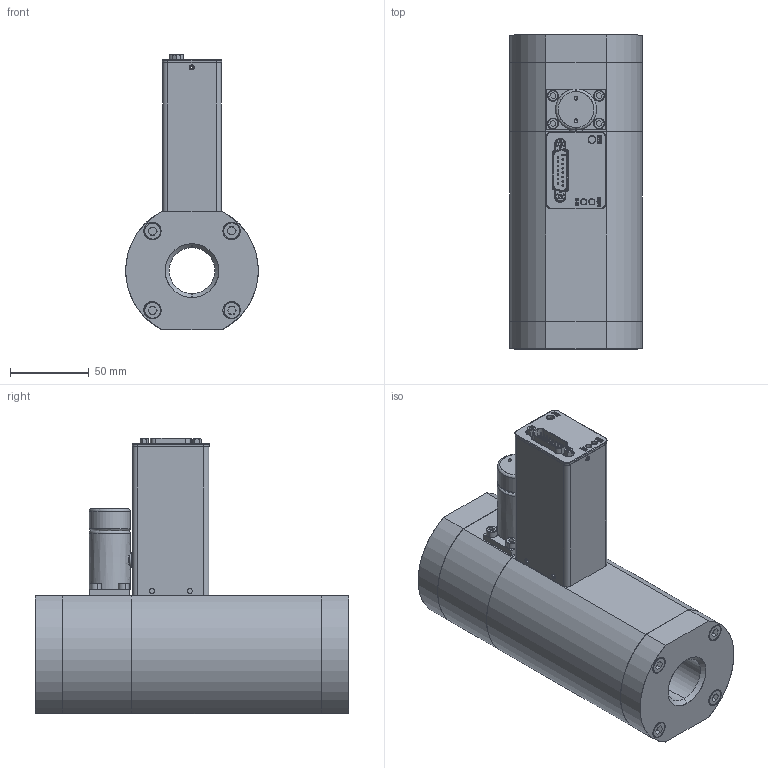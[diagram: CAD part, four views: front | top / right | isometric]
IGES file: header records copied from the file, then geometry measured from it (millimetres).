
Start section: SolidWorks IGES file using analytic representation for surfaces
Global section: file name: G:\Engineering\CAD MODELS FOR SALES\CAD MODEL STORAGE\SLA\SLA5853\IGES\SLA5853-S-2H-3-C-REVB.IGS; native system: SolidWorks 2020; preprocessor: SolidWorks 2020; author: SThen; date: 210727.084819; units: inch
Bounding box: 84 x 198.8 x 174.37 mm (x, y, z)
Surface area: 189828.3 mm2 (no closed solid volume)
Topology: 0 solids, 0 shells, 1473 faces, 17853 edges, 17809 vertices
Faces by surface type: bspline 744, revolution 729
